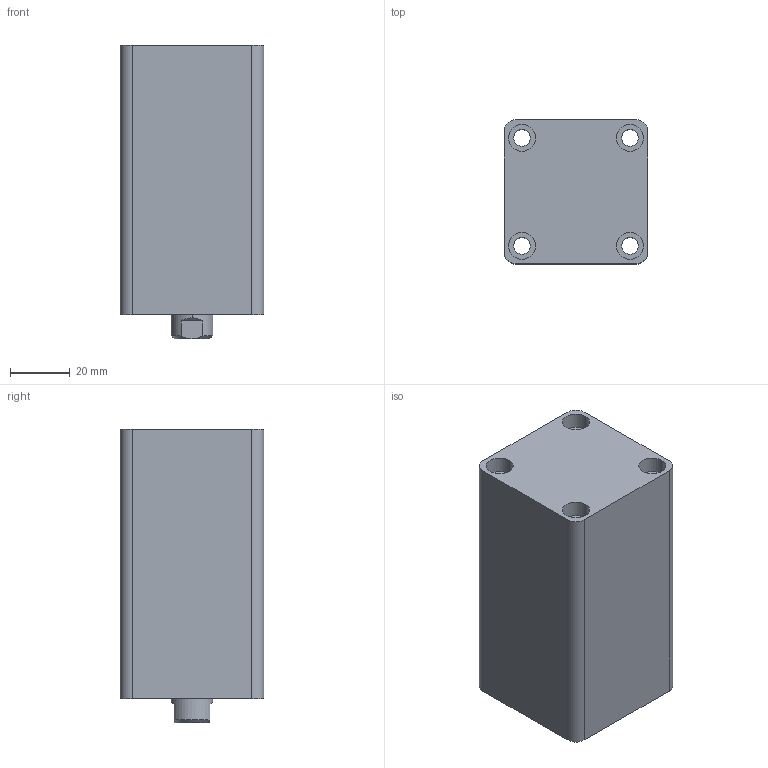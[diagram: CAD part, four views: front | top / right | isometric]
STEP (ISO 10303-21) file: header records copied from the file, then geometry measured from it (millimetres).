
FILE_DESCRIPTION (( 'STEP AP203' ), '1' );
FILE_NAME ('HTB-SD25-45N.STEP', '2019-10-07T06:03:23', ( '微软用户' ), ( '微软中国' ), 'SwSTEP 2.0', 'SolidWorks 2012', '' );
FILE_SCHEMA (( 'CONFIG_CONTROL_DESIGN' ));
Length unit declared in the file: millimetre
Products named in the file (3): HTB-SD25-45掛极; HTB-SD25-45N活塞杆; HTB-SD25-45N
Assembly tree (2 placements, depth 2):
  HTB-SD25-45N
    HTB-SD25-45掛极
    HTB-SD25-45N活塞杆
Bounding box: 48 x 48 x 98 mm (x, y, z)
Volume: 179630.5 mm3; surface area: 40460 mm2
Topology: 2 solids, 2 shells, 83 faces, 182 edges, 117 vertices
Faces by surface type: cylinder 42, plane 27, cone 8, torus 6
Entity records: 2653 total; most frequent: DIRECTION 454, CARTESIAN_POINT 429, ORIENTED_EDGE 360, AXIS2_PLACEMENT_3D 194, EDGE_CURVE 180, VERTEX_POINT 117, EDGE_LOOP 107, CIRCLE 106
